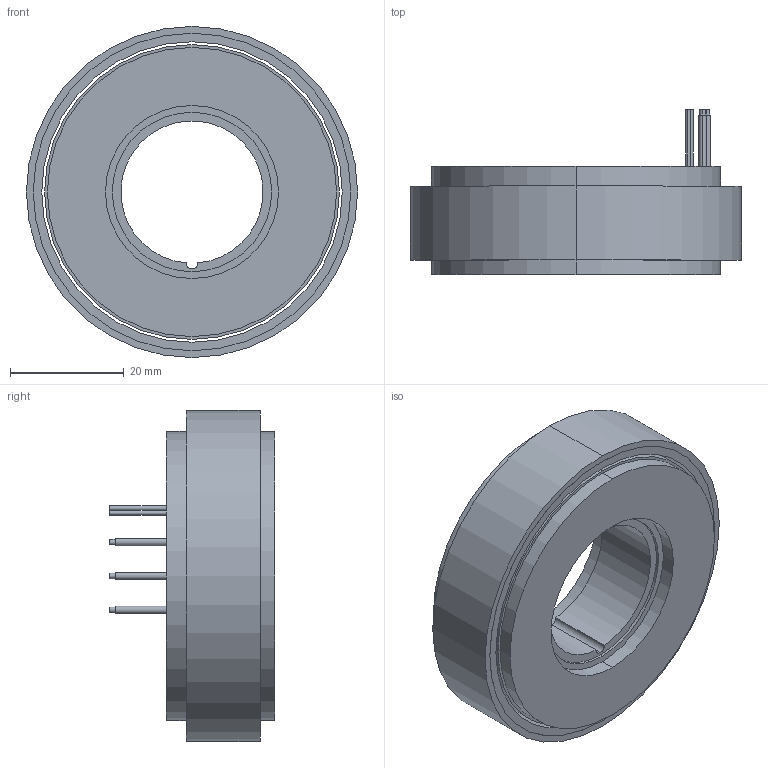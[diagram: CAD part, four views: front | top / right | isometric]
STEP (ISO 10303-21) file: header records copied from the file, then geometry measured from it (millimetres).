
FILE_DESCRIPTION (( 'STEP AP214' ), '1' );
FILE_NAME ('UE5019µç»ú.STEP', '2026-03-11T03:03:18', ( 'Windows User' ), ( 'P R C' ), 'SwSTEP 2.0', 'SolidWorks 2023', '' );
FILE_SCHEMA (( 'AUTOMOTIVE_DESIGN' ));
Length unit declared in the file: millimetre
Products named in the file (1): UE5019电机
Bounding box: 58.2 x 29 x 58.2 mm (x, y, z)
Volume: 34840 mm3; surface area: 13566.1 mm2
Topology: 2 solids, 2 shells, 61 faces, 123 edges, 82 vertices
Faces by surface type: cylinder 41, plane 20
Entity records: 1679 total; most frequent: DIRECTION 329, CARTESIAN_POINT 267, ORIENTED_EDGE 246, AXIS2_PLACEMENT_3D 144, EDGE_CURVE 123, VERTEX_POINT 82, CIRCLE 82, EDGE_LOOP 81
